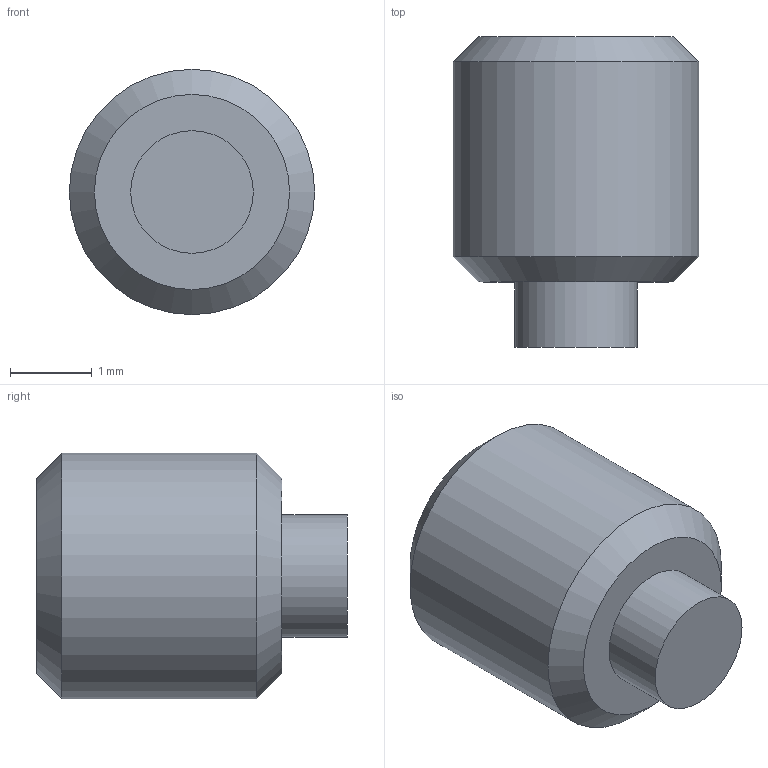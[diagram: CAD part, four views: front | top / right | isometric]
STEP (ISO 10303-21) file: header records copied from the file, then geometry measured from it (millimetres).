
FILE_DESCRIPTION( ( 'STEP AP203' ), '1' );
FILE_NAME( 'C:/Temp/Ganter_Step_05_03_2020/data/3_2/gn913_3/Grub screw GN 913.3-M3-3-KU.stp', '2020-03-13T05:35:31', ( 'License CC BY-ND 4.0' ), ( 'CADENAS' ), ' ', 'PARTsolutions', ' ' );
FILE_SCHEMA( ( 'CONFIG_CONTROL_DESIGN' ) );
Length unit declared in the file: millimetre
Products named in the file (1): _Grub screw GN 913.3-M3-3-KU
Bounding box: 3 x 3.8 x 3 mm (x, y, z)
Volume: 18.9 mm3; surface area: 50.3 mm2
Topology: 1 solids, 1 shells, 14 faces, 28 edges, 18 vertices
Faces by surface type: plane 10, cylinder 2, cone 2
Full cylindrical faces by diameter (mm): 1.5 x1, 3 x1
Entity records: 386 total; most frequent: DIRECTION 60, CARTESIAN_POINT 57, ORIENTED_EDGE 48, EDGE_CURVE 24, AXIS2_PLACEMENT_3D 21, EDGE_LOOP 20, VERTEX_POINT 18, LINE 18
